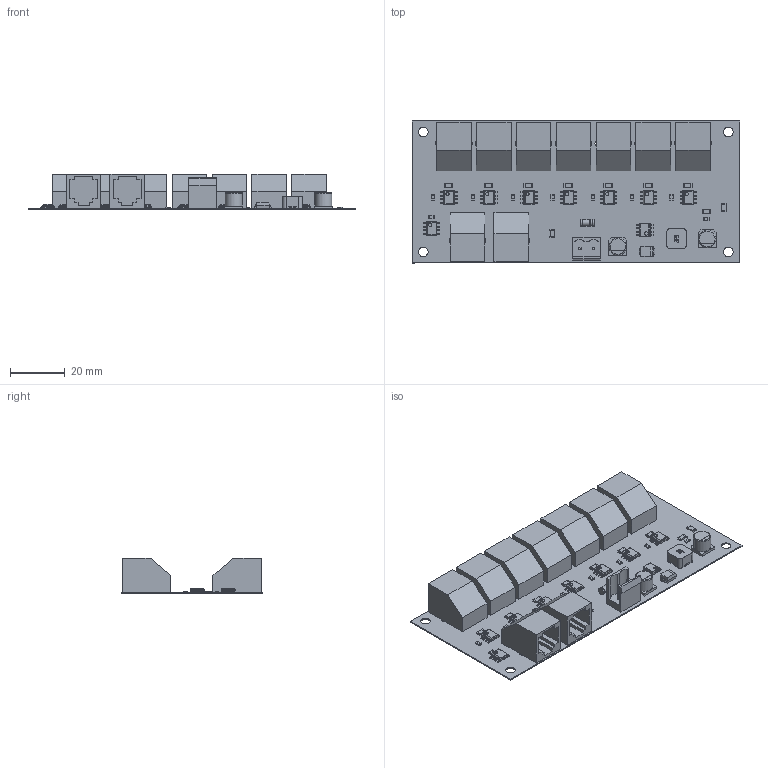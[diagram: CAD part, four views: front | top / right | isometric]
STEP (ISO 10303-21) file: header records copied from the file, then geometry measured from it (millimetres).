
FILE_DESCRIPTION(('Open CASCADE Model'),'2;1');
FILE_NAME('Open CASCADE Shape Model','2016-10-28T19:16:17',('Author'),( 'Open CASCADE'),'Open CASCADE STEP processor 6.5','Open CASCADE 6.5' ,'Unknown');
FILE_SCHEMA(('AUTOMOTIVE_DESIGN { 1 0 10303 214 1 1 1 1 }'));
Length unit declared in the file: millimetre
Products named in the file (65): PCB; BoardSplitter_B; R10Splitter_B; 1206-DEFAULT; U1Splitter_B; m08a; M08A_ASM_82_ASM; BODY_M08A_35; LEAD_M08A_57; TIEBAR_M08A_2_ASM; MANIFOLD_SOLID_BREP_2784; MANIFOLD_SOLID_BREP_2935; MANIFOLD_SOLID_BREP_3086; MANIFOLD_SOLID_BREP_3237; R9Splitter_B; C12Splitter_B; 0805-DEFAULT; L1Splitter_B; 744777003; L飆fl踄he; U9Splitter_B; D2Splitter_B; D214-SMB; C11Splitter_B; RADIAL-SMD-6.3mm; U8Splitter_B; U7Splitter_B; U6Splitter_B; U5Splitter_B; U4Splitter_B; U3Splitter_B; U2Splitter_B; R1Splitter_B; R8Splitter_B; R7Splitter_B; R6Splitter_B; R5Splitter_B; R4Splitter_B; R3Splitter_B; R2Splitter_B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
Assembly tree (105 placements, depth 6):
  PCB
    BoardSplitter_B
    R10Splitter_B
      1206-DEFAULT
    U1Splitter_B
      m08a
        M08A_ASM_82_ASM
          BODY_M08A_35
          LEAD_M08A_57  x8
          TIEBAR_M08A_2_ASM
            MANIFOLD_SOLID_BREP_2784
            MANIFOLD_SOLID_BREP_2935
            MANIFOLD_SOLID_BREP_3086
            MANIFOLD_SOLID_BREP_3237
    R9Splitter_B
      1206-DEFAULT
    C12Splitter_B
      0805-DEFAULT
    L1Splitter_B
      744777003
        744777003
        L飆fl踄he
        L飆fl踄he
    U9Splitter_B
      m08a
        M08A_ASM_82_ASM
          BODY_M08A_35
          LEAD_M08A_57  x8
          TIEBAR_M08A_2_ASM
            MANIFOLD_SOLID_BREP_2784
            MANIFOLD_SOLID_BREP_2935
            MANIFOLD_SOLID_BREP_3086
            MANIFOLD_SOLID_BREP_3237
    D2Splitter_B
      D214-SMB
    C11Splitter_B
      RADIAL-SMD-6.3mm
    U8Splitter_B
      m08a
        M08A_ASM_82_ASM
          BODY_M08A_35
          LEAD_M08A_57  x8
          TIEBAR_M08A_2_ASM
            MANIFOLD_SOLID_BREP_2784
            MANIFOLD_SOLID_BREP_2935
            MANIFOLD_SOLID_BREP_3086
            MANIFOLD_SOLID_BREP_3237
    U7Splitter_B
      m08a
        M08A_ASM_82_ASM
          BODY_M08A_35
          LEAD_M08A_57  x8
          TIEBAR_M08A_2_ASM
            MANIFOLD_SOLID_BREP_2784
            MANIFOLD_SOLID_BREP_2935
            MANIFOLD_SOLID_BREP_3086
            MANIFOLD_SOLID_BREP_3237
    U6Splitter_B
      m08a
        M08A_ASM_82_ASM
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Bounding box: 120 x 52.02 x 13.11 mm (x, y, z)
Volume: 20461.5 mm3; surface area: 27912.8 mm2
Topology: 154 solids, 154 shells, 2774 faces, 6823 edges, 4348 vertices
Faces by surface type: plane 2012, cylinder 647, sphere 90, extrusion 13, torus 12
Full cylindrical faces by diameter (mm): 0.9 x54, 1.5 x2, 3.25 x18, 3.5 x4, 5 x1
Entity records: 39311 total; most frequent: CARTESIAN_POINT 11233, DIRECTION 4589, VECTOR 2671, LINE 2658, ORIENTED_EDGE 2600, PCURVE 2600, DEFINITIONAL_REPRESENTATION 2600, EDGE_CURVE 1300
